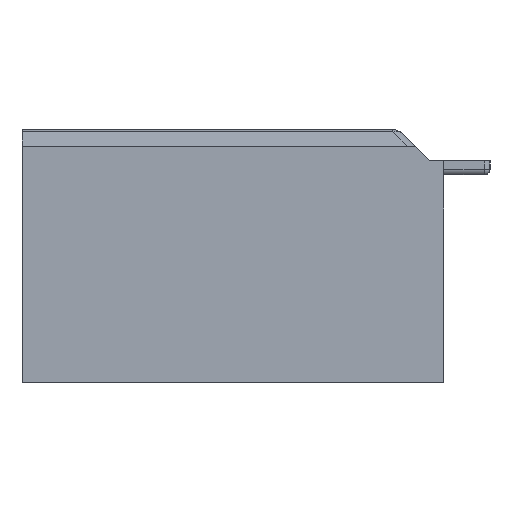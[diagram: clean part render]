
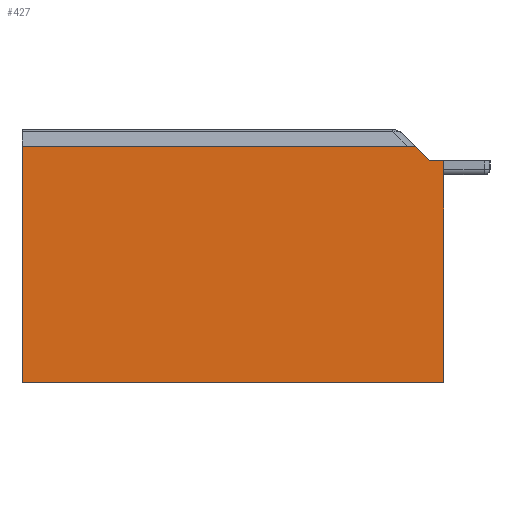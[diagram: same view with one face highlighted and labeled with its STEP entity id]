
A CAD part, left-side view. The second image highlights one B-rep face of the part: STEP entity #427.
In plain terms, the highlighted planar face has unit normal (-1, 0, 0).
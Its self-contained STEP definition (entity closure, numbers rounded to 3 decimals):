
#219 = VECTOR ( 'NONE', #4441, 1000. ) ;
#255 = LINE ( 'NONE', #2591, #219 ) ;
#424 = VECTOR ( 'NONE', #6664, 1000. ) ;
#427 = ADVANCED_FACE ( 'NONE', ( #2096 ), #8119, .T. ) ;
#566 = LINE ( 'NONE', #6632, #424 ) ;
#672 = EDGE_CURVE ( 'NONE', #3299, #4384, #5785, .T. ) ;
#891 = EDGE_CURVE ( 'NONE', #1507, #3299, #1657, .T. ) ;
#1143 = VERTEX_POINT ( 'NONE', #5096 ) ;
#1346 = VECTOR ( 'NONE', #8931, 1000. ) ;
#1405 = LINE ( 'NONE', #8415, #1346 ) ;
#1507 = VERTEX_POINT ( 'NONE', #2514 ) ;
#1657 = LINE ( 'NONE', #3620, #1675 ) ;
#1675 = VECTOR ( 'NONE', #3499, 1000. ) ;
#1756 = EDGE_CURVE ( 'NONE', #1143, #7749, #2268, .T. ) ;
#1869 = EDGE_CURVE ( 'NONE', #1143, #4384, #1405, .T. ) ;
#2069 = AXIS2_PLACEMENT_3D ( 'NONE', #9457, #8801, #8837 ) ;
#2084 = CARTESIAN_POINT ( 'NONE',  ( 0.5, 361., 83.846 ) ) ;
#2096 = FACE_OUTER_BOUND ( 'NONE', #9057, .T. ) ;
#2112 = EDGE_CURVE ( 'NONE', #7749, #8027, #255, .T. ) ;
#2185 = VECTOR ( 'NONE', #9804, 1000. ) ;
#2268 = LINE ( 'NONE', #9388, #2185 ) ;
#2514 = CARTESIAN_POINT ( 'NONE',  ( 0.5, 371.154, 89. ) ) ;
#2591 = CARTESIAN_POINT ( 'NONE',  ( 0.5, 511., 89. ) ) ;
#2864 = EDGE_CURVE ( 'NONE', #1507, #8027, #566, .T. ) ;
#3299 = VERTEX_POINT ( 'NONE', #4655 ) ;
#3499 = DIRECTION ( 'NONE',  ( 0., -0.707, -0.707 ) ) ;
#3556 = ORIENTED_EDGE ( 'NONE', *, *, #1756, .F. ) ;
#3573 = CARTESIAN_POINT ( 'NONE',  ( 0.5, 511., 5. ) ) ;
#3620 = CARTESIAN_POINT ( 'NONE',  ( 0.5, 366., 83.846 ) ) ;
#4376 = ORIENTED_EDGE ( 'NONE', *, *, #1869, .T. ) ;
#4384 = VERTEX_POINT ( 'NONE', #2084 ) ;
#4441 = DIRECTION ( 'NONE',  ( 0., 0., 1. ) ) ;
#4468 = ORIENTED_EDGE ( 'NONE', *, *, #672, .F. ) ;
#4469 = ORIENTED_EDGE ( 'NONE', *, *, #891, .F. ) ;
#4655 = CARTESIAN_POINT ( 'NONE',  ( 0.5, 366., 83.846 ) ) ;
#4800 = ORIENTED_EDGE ( 'NONE', *, *, #2864, .T. ) ;
#5096 = CARTESIAN_POINT ( 'NONE',  ( 0.5, 361., 5. ) ) ;
#5766 = VECTOR ( 'NONE', #6786, 1000. ) ;
#5785 = LINE ( 'NONE', #10021, #5766 ) ;
#6632 = CARTESIAN_POINT ( 'NONE',  ( 0.5, 361., 89. ) ) ;
#6664 = DIRECTION ( 'NONE',  ( 0., 1., 0. ) ) ;
#6786 = DIRECTION ( 'NONE',  ( 0., -1., 0. ) ) ;
#7511 = ORIENTED_EDGE ( 'NONE', *, *, #2112, .F. ) ;
#7749 = VERTEX_POINT ( 'NONE', #3573 ) ;
#8027 = VERTEX_POINT ( 'NONE', #9672 ) ;
#8119 = PLANE ( 'NONE',  #2069 ) ;
#8415 = CARTESIAN_POINT ( 'NONE',  ( 0.5, 361., 89. ) ) ;
#8801 = DIRECTION ( 'NONE',  ( -1., 0., 0. ) ) ;
#8837 = DIRECTION ( 'NONE',  ( 0., -1., 0. ) ) ;
#8931 = DIRECTION ( 'NONE',  ( 0., 0., 1. ) ) ;
#9057 = EDGE_LOOP ( 'NONE', ( #4468, #4469, #4800, #7511, #3556, #4376 ) ) ;
#9388 = CARTESIAN_POINT ( 'NONE',  ( 0.5, 361., 5. ) ) ;
#9457 = CARTESIAN_POINT ( 'NONE',  ( 0.5, 361., 89. ) ) ;
#9672 = CARTESIAN_POINT ( 'NONE',  ( 0.5, 511., 89. ) ) ;
#9804 = DIRECTION ( 'NONE',  ( 0., 1., 0. ) ) ;
#10021 = CARTESIAN_POINT ( 'NONE',  ( 0.5, 361., 83.846 ) ) ;
